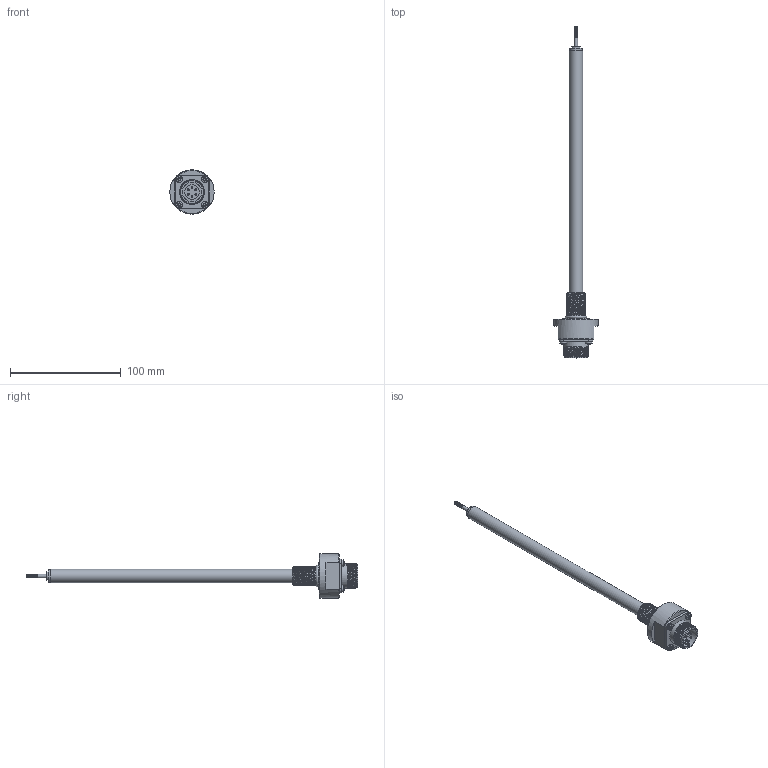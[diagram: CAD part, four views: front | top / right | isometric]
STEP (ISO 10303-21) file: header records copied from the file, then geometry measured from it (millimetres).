
FILE_DESCRIPTION( ( 'Unknown' ), '1' );
FILE_NAME( 'N:/Engineering/CAD/LVDT/HYD/Kunden-3D-Modell/SM100-HYD-18-S.stp', 'Unknown', ( 'Unknown' ), ( 'Unknown' ), 'PSStep 17.0.49', 'Unknown', ' ' );
FILE_SCHEMA( ( 'AUTOMOTIVE_DESIGN { 1 0 10303 214 1 1 1 1 }' ) );
Length unit declared in the file: millimetre
Products named in the file (9): Assem1; Endkappe; Innenrohr_SM5-HYD; Kernverlängerung_SM5-HYD; SM-HYD-Flansch_M18_vereinfacht; O-Ring_15,4x2,1; MIL-Stecker_2; DIN7985_M3-6_Torx; Aussenrohr_SM100-HYD_vereinfacht
Assembly tree (11 placements, depth 2):
  Assem1
    Endkappe
    Innenrohr_SM5-HYD
    Kernverlängerung_SM5-HYD
    SM-HYD-Flansch_M18_vereinfacht
    O-Ring_15,4x2,1
    MIL-Stecker_2
    DIN7985_M3-6_Torx  x4
    Aussenrohr_SM100-HYD_vereinfacht
Bounding box: 40 x 299.9 x 40 mm (x, y, z)
Volume: 57090.5 mm3; surface area: 27275.5 mm2
Topology: 11 solids, 11 shells, 255 faces, 589 edges, 385 vertices
Faces by surface type: plane 132, cylinder 82, cone 22, bspline 14, sphere 4, torus 1
Full cylindrical faces by diameter (mm): 1.4 x6, 1.6 x6, 2.013 x1, 2.4 x1, 2.5 x8, 3 x9, 4 x1, 6 x6, 8 x1, 10 x1, 11 x2, 12 x3, 13 x1, 15.8 x1, 17.6 x1, 18.8 x1, 20.2 x1, 22.3 x7, 24 x1, 40 x1
Entity records: 13563 total; most frequent: CARTESIAN_POINT 8176, DIRECTION 792, ORIENTED_EDGE 656, AXIS2_PLACEMENT_3D 336, EDGE_CURVE 328, EDGE_LOOP 289, VERTEX_POINT 255, FACE_OUTER_BOUND 236
